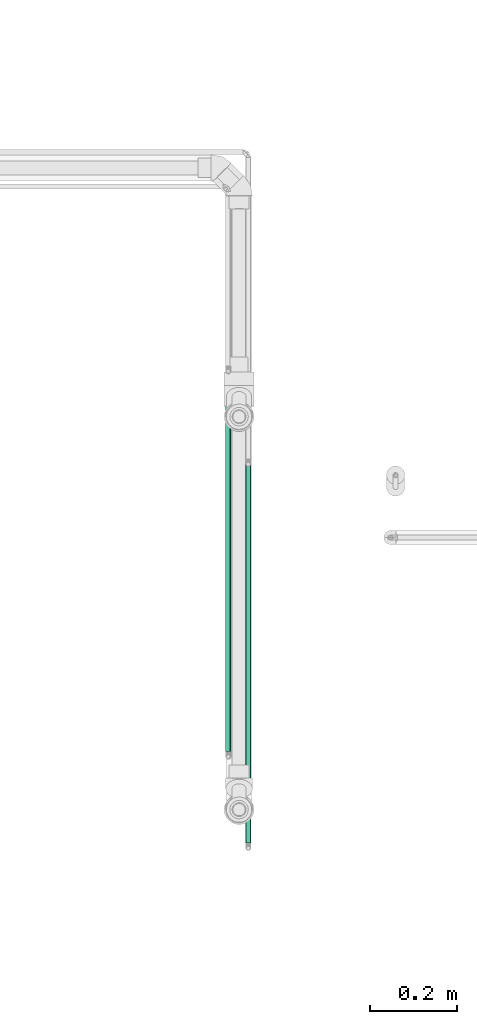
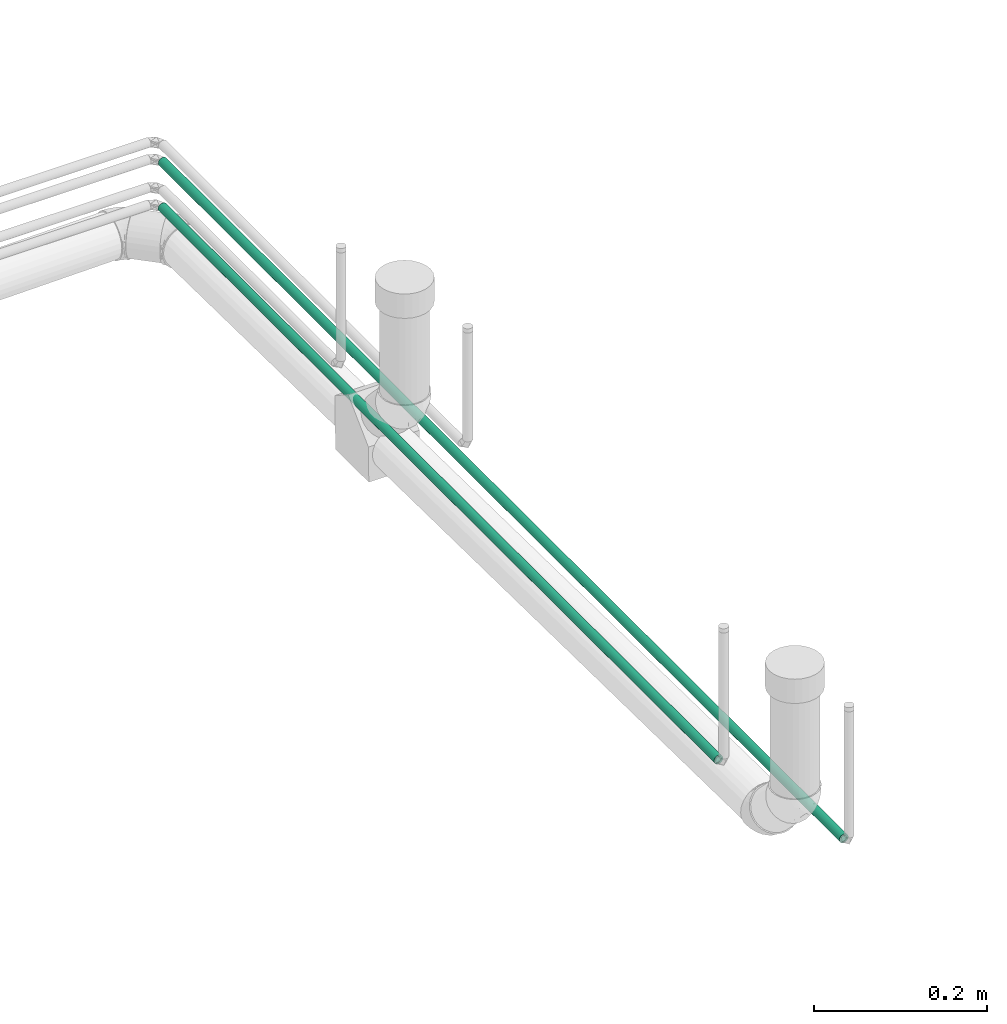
# One storey, part 26 of 108: 2 flow segments.
"""IFC2X3 building model written with IfcOpenShell, lengths in millimetres."""

from ifc_helpers import new_model, entity, si_unit, converted_unit, derived_unit, direction, frame, origin_with_axes, origin_2d_with_axis, place, context, subcontext, project, spatial, hollow_circle, extrude, source, transform, mapped, type_object, element, save


model = new_model("IFC2X3")

# Units and contexts
model_context = context("Model", 3, precision=0.01, world=frame((0.0, 4.29681676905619e-09, 0.0)), true_north=direction((4.01073788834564e-13, 1.0)))
plan_context = context("Plan", 3, precision=0.01, world=frame((0.0, 4.29681676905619e-09, 0.0)), true_north=direction((4.01073788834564e-13, 1.0)))
body_context = subcontext(model_context, "Body", "Model", "MODEL_VIEW")
ifc_project = project(units=[converted_unit("PLANEANGLEUNIT", "DEGREE", entity("IfcPositiveLengthMeasure", 0.0174532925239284), si_unit("PLANEANGLEUNIT", "RADIAN"), dimensions=[0, 0, 0, 0, 0, 0, 0]), si_unit("AREAUNIT", "SQUARE_METRE"), si_unit("LENGTHUNIT", "METRE", prefix="MILLI"), si_unit("MASSUNIT", "GRAM", prefix="KILO"), si_unit("POWERUNIT", "WATT"), si_unit("PRESSUREUNIT", "PASCAL", prefix="KILO"), si_unit("FORCEUNIT", "NEWTON", prefix="KILO"), si_unit("ELECTRICVOLTAGEUNIT", "VOLT"), si_unit("ELECTRICCURRENTUNIT", "AMPERE"), si_unit("THERMODYNAMICTEMPERATUREUNIT", "DEGREE_CELSIUS"), si_unit("TIMEUNIT", "SECOND"), si_unit("VOLUMEUNIT", "CUBIC_METRE"), derived_unit("LINEARVELOCITYUNIT", [(si_unit("LENGTHUNIT", "METRE"), 1), (si_unit("TIMEUNIT", "SECOND"), -1)]), derived_unit("VOLUMETRICFLOWRATEUNIT", [(si_unit("VOLUMEUNIT", "CUBIC_METRE"), 1), (si_unit("TIMEUNIT", "SECOND"), -1)]), derived_unit("THERMALTRANSMITTANCEUNIT", [(si_unit("POWERUNIT", "WATT"), 1), (si_unit("THERMODYNAMICTEMPERATUREUNIT", "KELVIN"), -1), (si_unit("AREAUNIT", "SQUARE_METRE"), -1)]), derived_unit("SOUNDPRESSUREUNIT", [(si_unit("PRESSUREUNIT", "PASCAL"), 1)])], contexts=[model_context, plan_context])

# Site, building, storey
site_placement = place(None, frame((0.0, -4.29681676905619e-09, 0.0), z_axis=(0.0, 0.0, 1.0), x_axis=(1.0, 0.0, 0.0)))
site = spatial("IfcSite", under=ifc_project, at=site_placement, CompositionType="ELEMENT")
building_placement = place(site_placement, frame((0.0, 4.29681676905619e-09, 0.0), z_axis=(0.0, 0.0, 1.0), x_axis=(1.0, 0.0, 0.0)))
building = spatial("IfcBuilding", under=site, at=building_placement, Name="mc-building", CompositionType="ELEMENT")
storey_placement = place(building_placement, frame((0.0, 0.0, 210200.0), z_axis=(0.0, 0.0, 1.0), x_axis=(1.0, 0.0, 0.0)))
storey = spatial("IfcBuildingStorey", under=building, at=storey_placement, Name="Nivå F - 0,7 m", CompositionType="ELEMENT", Elevation=210200.0)

# Flow segments
pipe_segment_type = type_object("IfcPipeSegmentType", Name="Kobberrør", PredefinedType="RIGIDSEGMENT")
shared_shape_1 = source(origin_with_axes(), body_context, "Body", "SweptSolid", [
    extrude(hollow_circle(Radius=6.0, WallThickness=2.0, at=origin_2d_with_axis()), frame((0.0, 0.0, 0.0), z_axis=(1.0, 0.0, 0.0), x_axis=(0.0, 1.0, 0.0)), (0.0, 0.0, 1.0), 1570.6),
])
flow_segment_1_placement = place(storey_placement, frame((331142.38085, 460581.49109, 285.525679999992), z_axis=(2.999999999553e-06, -1.6999999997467e-05, 0.999999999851), x_axis=(-5.99999999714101e-12, 0.9999999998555, 1.69999999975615e-05)))
element("IfcFlowSegment", 1, at=flow_segment_1_placement, inside=storey, type_object=pipe_segment_type, Name="Kobberrør", context=body_context, shape_type="MappedRepresentation", body=[
    mapped(shared_shape_1, transform((0.0, 0.0, 0.0), scale=1.0)),
])
shared_shape_2 = source(origin_with_axes(), body_context, "Body", "SweptSolid", [
    extrude(hollow_circle(Radius=6.0, WallThickness=2.0, at=origin_2d_with_axis()), frame((0.0, 0.0, 0.0), z_axis=(1.0, 0.0, 0.0), x_axis=(0.0, 1.0, 0.0)), (0.0, 0.0, 1.0), 1281.9),
])
flow_segment_2_placement = place(storey_placement, frame((331096.4804, 460791.03657, 285.54501999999), z_axis=(0.0, 0.0, 1.0), x_axis=(0.0, 1.0, 0.0)))
element("IfcFlowSegment", 2, at=flow_segment_2_placement, inside=storey, type_object=pipe_segment_type, Name="Kobberrør", context=body_context, shape_type="MappedRepresentation", body=[
    mapped(shared_shape_2, transform((0.0, 0.0, 0.0), scale=1.0)),
])

save(model, "model.ifc")
